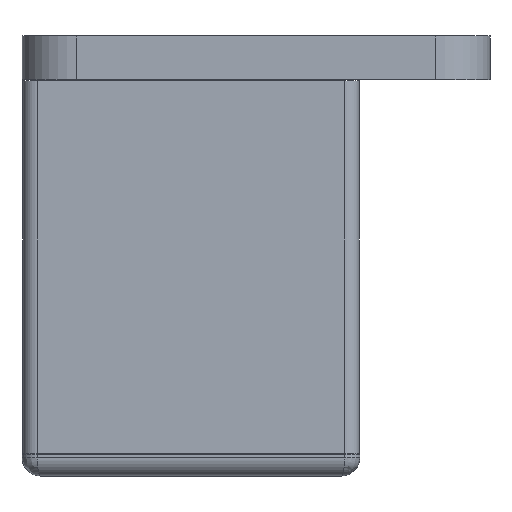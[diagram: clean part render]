
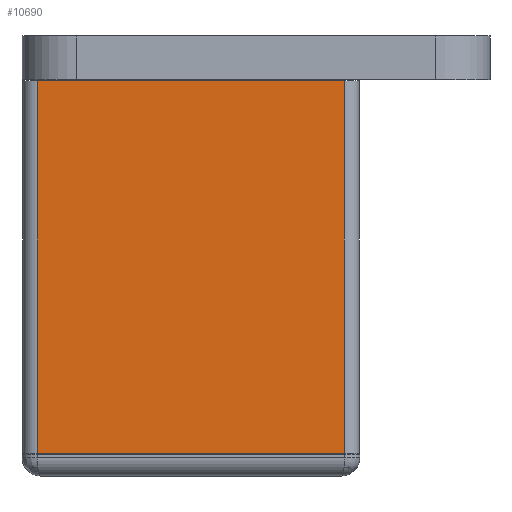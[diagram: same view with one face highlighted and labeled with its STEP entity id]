
A CAD part, left-side view. The second image highlights one B-rep face of the part: STEP entity #10690.
In plain terms, the highlighted planar face has unit normal (-1, 0, 0).
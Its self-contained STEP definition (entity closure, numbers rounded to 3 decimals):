
#10690=ADVANCED_FACE('',(#10949),#10974,.F.);
#10809=VERTEX_POINT('',#10810);
#10810=CARTESIAN_POINT('',(-23.,21.,54.));
#10817=VERTEX_POINT('',#10818);
#10818=CARTESIAN_POINT('',(-23.,21.,3.));
#10819=EDGE_CURVE('',#10809,#10817,#10820,.T.);
#10820=LINE('',#10821,#10822);
#10821=CARTESIAN_POINT('',(-23.,21.,144.));
#10822=VECTOR('',#10823,1.);
#10823=DIRECTION('',(0.,0.,-1.));
#10949=FACE_OUTER_BOUND('',#10950,.T.);
#10950=EDGE_LOOP('',(#10951,#10952,#10953,#10954));
#10951=ORIENTED_EDGE('',*,*,#10955,.F.);
#10952=ORIENTED_EDGE('',*,*,#10819,.T.);
#10953=ORIENTED_EDGE('',*,*,#10962,.T.);
#10954=ORIENTED_EDGE('',*,*,#10969,.F.);
#10955=EDGE_CURVE('',#10809,#10960,#10956,.T.);
#10956=LINE('',#10957,#10958);
#10957=CARTESIAN_POINT('',(-23.,21.,54.));
#10958=VECTOR('',#10959,1.);
#10959=DIRECTION('',(0.,-1.,0.));
#10960=VERTEX_POINT('',#10961);
#10961=CARTESIAN_POINT('',(-23.,-21.,54.));
#10962=EDGE_CURVE('',#10817,#10967,#10963,.T.);
#10963=LINE('',#10964,#10965);
#10964=CARTESIAN_POINT('',(-23.,21.,3.));
#10965=VECTOR('',#10966,1.);
#10966=DIRECTION('',(0.,-1.,0.));
#10967=VERTEX_POINT('',#10968);
#10968=CARTESIAN_POINT('',(-23.,-21.,3.));
#10969=EDGE_CURVE('',#10960,#10967,#10970,.T.);
#10970=LINE('',#10971,#10972);
#10971=CARTESIAN_POINT('',(-23.,-21.,144.));
#10972=VECTOR('',#10973,1.);
#10973=DIRECTION('',(0.,0.,-1.));
#10974=PLANE('',#10975);
#10975=AXIS2_PLACEMENT_3D('',#10976,#10977,#10978);
#10976=CARTESIAN_POINT('',(-23.,21.,144.));
#10977=DIRECTION('',(1.,0.,0.));
#10978=DIRECTION('',(0.,0.,-1.));
